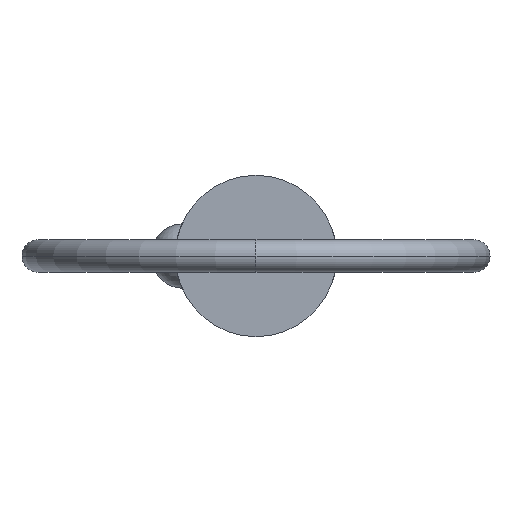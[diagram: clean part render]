
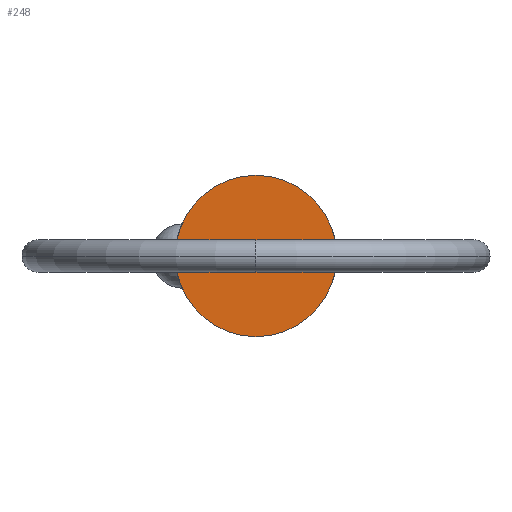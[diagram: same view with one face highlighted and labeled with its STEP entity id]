
A CAD part, left-side view. The second image highlights one B-rep face of the part: STEP entity #248.
In plain terms, the highlighted planar face has unit normal (-1, 0, 0).
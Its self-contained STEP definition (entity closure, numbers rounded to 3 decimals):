
#35 = DIRECTION ( 'NONE',  ( 1., 0., 0. ) ) ;
#112 = AXIS2_PLACEMENT_3D ( 'NONE', #760, #35, #431 ) ;
#131 = VERTEX_POINT ( 'NONE', #218 ) ;
#168 = DIRECTION ( 'NONE',  ( 0., 0., 1. ) ) ;
#218 = CARTESIAN_POINT ( 'NONE',  ( 0., 0., -4.7 ) ) ;
#247 = EDGE_CURVE ( 'NONE', #131, #596, #717, .T. ) ;
#248 = ADVANCED_FACE ( 'NONE', ( #562 ), #828, .T. ) ;
#254 = ORIENTED_EDGE ( 'NONE', *, *, #646, .F. ) ;
#255 = CIRCLE ( 'NONE', #112, 4.7 ) ;
#266 = ORIENTED_EDGE ( 'NONE', *, *, #247, .F. ) ;
#297 = DIRECTION ( 'NONE',  ( 1., 0., 0. ) ) ;
#358 = CARTESIAN_POINT ( 'NONE',  ( 0., 0., 0. ) ) ;
#431 = DIRECTION ( 'NONE',  ( 0., 0., -1. ) ) ;
#471 = EDGE_LOOP ( 'NONE', ( #266, #254 ) ) ;
#497 = CARTESIAN_POINT ( 'NONE',  ( 0., 0., 0. ) ) ;
#562 = FACE_OUTER_BOUND ( 'NONE', #471, .T. ) ;
#565 = DIRECTION ( 'NONE',  ( 0., 0., -1. ) ) ;
#581 = CARTESIAN_POINT ( 'NONE',  ( 0., 0., 4.7 ) ) ;
#596 = VERTEX_POINT ( 'NONE', #581 ) ;
#646 = EDGE_CURVE ( 'NONE', #596, #131, #255, .T. ) ;
#717 = CIRCLE ( 'NONE', #844, 4.7 ) ;
#760 = CARTESIAN_POINT ( 'NONE',  ( 0., 0., 0. ) ) ;
#761 = DIRECTION ( 'NONE',  ( -1., 0., 0. ) ) ;
#802 = AXIS2_PLACEMENT_3D ( 'NONE', #497, #761, #168 ) ;
#828 = PLANE ( 'NONE',  #802 ) ;
#844 = AXIS2_PLACEMENT_3D ( 'NONE', #358, #297, #565 ) ;
